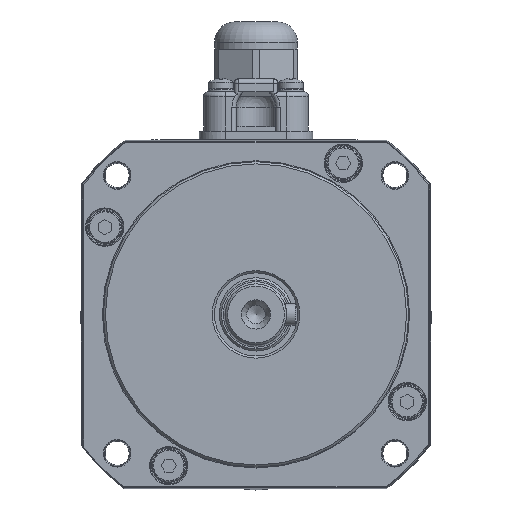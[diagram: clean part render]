
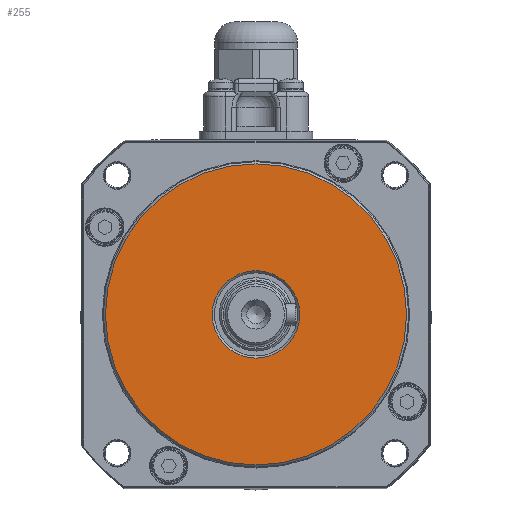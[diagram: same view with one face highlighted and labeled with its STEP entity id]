
A CAD part, front view. The second image highlights one B-rep face of the part: STEP entity #255.
In plain terms, the highlighted planar face has unit normal (0, -1, 0).
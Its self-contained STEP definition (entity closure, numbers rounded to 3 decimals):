
#255=ADVANCED_FACE('',(#2078,#2079),#2080,.T.);
#2078=FACE_BOUND('',#5557,.T.);
#2079=FACE_OUTER_BOUND('',#5558,.T.);
#2080=PLANE('',#5559);
#5557=EDGE_LOOP('',(#12611));
#5558=EDGE_LOOP('',(#12612));
#5559=AXIS2_PLACEMENT_3D('',#12613,#12614,#12615);
#12611=ORIENTED_EDGE('',*,*,#24228,.T.);
#12612=ORIENTED_EDGE('',*,*,#24229,.T.);
#12613=CARTESIAN_POINT('',(0.,-85.,0.));
#12614=DIRECTION('',(0.,-1.0,0.));
#12615=DIRECTION('',(-1.0,0.,0.0));
#24228=EDGE_CURVE('',#28496,#28496,#28497,.T.);
#24229=EDGE_CURVE('',#28498,#28498,#28499,.T.);
#28496=VERTEX_POINT('',#34855);
#28497=CIRCLE('',#34856,10.018);
#28498=VERTEX_POINT('',#34857);
#28499=CIRCLE('',#34858,34.5);
#34855=CARTESIAN_POINT('',(-10.018,-85.,0.));
#34856=AXIS2_PLACEMENT_3D('',#44663,#44664,#44665);
#34857=CARTESIAN_POINT('',(-34.5,-85.,0.));
#34858=AXIS2_PLACEMENT_3D('',#44666,#44667,#44668);
#44663=CARTESIAN_POINT('',(0.,-85.,0.));
#44664=DIRECTION('',(0.,1.0,0.));
#44665=DIRECTION('',(-1.0,0.,0.));
#44666=CARTESIAN_POINT('',(0.,-85.,0.));
#44667=DIRECTION('',(0.,-1.0,0.));
#44668=DIRECTION('',(-1.0,0.,0.));
